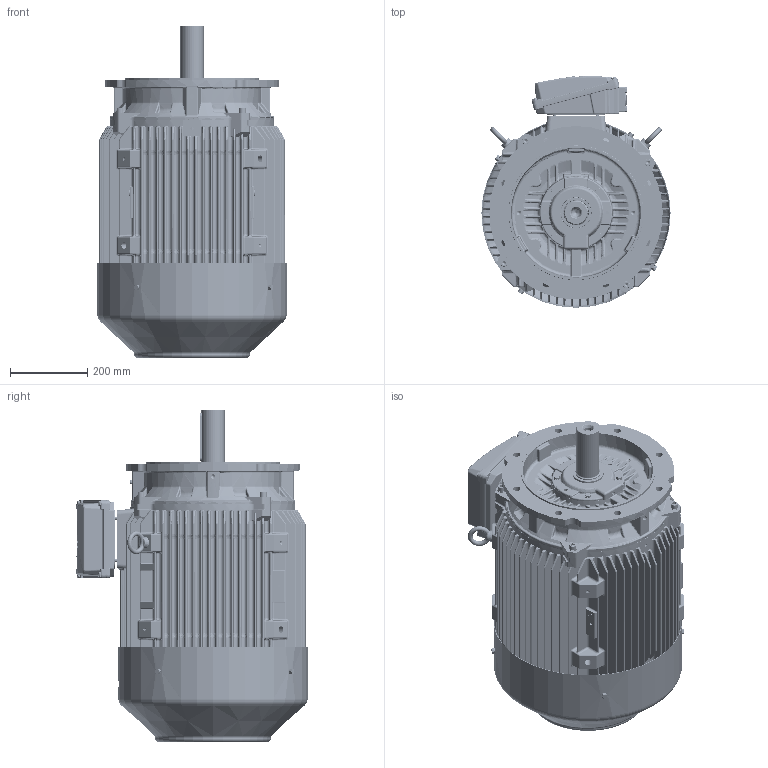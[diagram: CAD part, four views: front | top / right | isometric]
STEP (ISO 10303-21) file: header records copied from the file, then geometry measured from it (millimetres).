
FILE_DESCRIPTION (( 'STEP AP203' ), '1' );
FILE_NAME ('0222500464_RevB.STEP', '2019-05-15T09:55:33', ( '' ), ( '' ), 'SwSTEP 2.0', 'SolidWorks 2015', '' );
FILE_SCHEMA (( 'CONFIG_CONTROL_DESIGN' ));
Length unit declared in the file: inch
Products named in the file (1): 0222500464_RevB
Bounding box: 491 x 599.9 x 861.5 mm (x, y, z)
Volume: 24911062.7 mm3; surface area: 5213111.9 mm2
Topology: 69 solids, 69 shells, 11160 faces, 27655 edges, 16486 vertices
Faces by surface type: cylinder 3400, bspline 3109, plane 2144, torus 1193, cone 1104, sphere 210
Entity records: 443106 total; most frequent: CARTESIAN_POINT 201228, ORIENTED_EDGE 54646, DIRECTION 46686, EDGE_CURVE 27323, AXIS2_PLACEMENT_3D 19382, VERTEX_POINT 16460, EDGE_LOOP 12085, CIRCLE 11330
